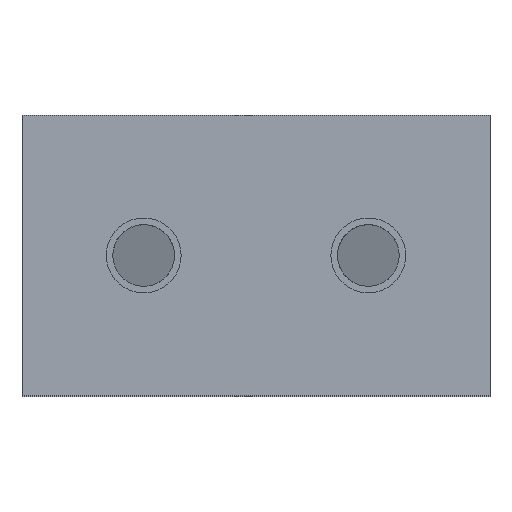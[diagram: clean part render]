
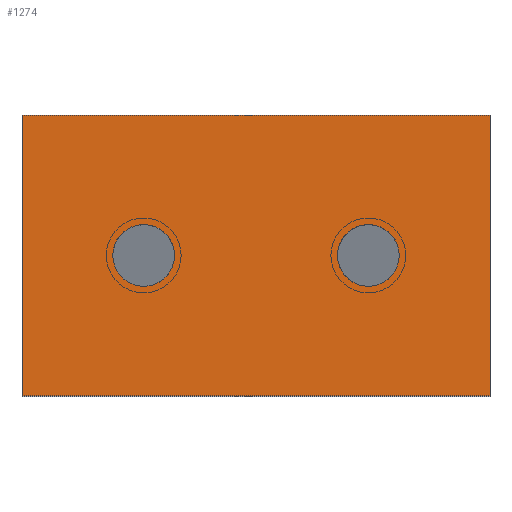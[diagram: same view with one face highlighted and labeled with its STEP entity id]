
A CAD part, top view. The second image highlights one B-rep face of the part: STEP entity #1274.
In plain terms, the highlighted planar face has unit normal (0, 0, 1).
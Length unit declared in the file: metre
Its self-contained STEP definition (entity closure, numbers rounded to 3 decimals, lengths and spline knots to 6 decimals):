
#405=CARTESIAN_POINT('',(0.006,0.0075,0.));
#406=DIRECTION('',(0.,0.,-1.));
#407=DIRECTION('',(-1.,0.,0.));
#408=AXIS2_PLACEMENT_3D('',#405,#406,#407);
#410=CARTESIAN_POINT('',(0.006,0.0075,0.));
#411=DIRECTION('',(0.,0.,-1.));
#412=DIRECTION('',(1.,0.,0.));
#413=AXIS2_PLACEMENT_3D('',#410,#411,#412);
#415=CARTESIAN_POINT('',(-0.006,0.0075,0.));
#416=DIRECTION('',(0.,0.,-1.));
#417=DIRECTION('',(-1.,0.,0.));
#418=AXIS2_PLACEMENT_3D('',#415,#416,#417);
#420=CARTESIAN_POINT('',(-0.006,0.0075,0.));
#421=DIRECTION('',(0.,0.,-1.));
#422=DIRECTION('',(1.,0.,0.));
#423=AXIS2_PLACEMENT_3D('',#420,#421,#422);
#425=DIRECTION('',(0.,1.,0.));
#426=VECTOR('',#425,0.015);
#427=CARTESIAN_POINT('',(0.0125,0.,0.));
#428=LINE('',#427,#426);
#429=DIRECTION('',(1.,0.,0.));
#430=VECTOR('',#429,0.025);
#431=CARTESIAN_POINT('',(-0.0125,0.,0.));
#432=LINE('',#431,#430);
#433=DIRECTION('',(0.,-1.,0.));
#434=VECTOR('',#433,0.015);
#435=CARTESIAN_POINT('',(-0.0125,0.015,0.));
#436=LINE('',#435,#434);
#437=DIRECTION('',(-1.,0.,0.));
#438=VECTOR('',#437,0.025);
#439=CARTESIAN_POINT('',(0.0125,0.015,0.));
#440=LINE('',#439,#438);
#661=CARTESIAN_POINT('',(-0.0125,0.,0.));
#662=VERTEX_POINT('',#661);
#663=CARTESIAN_POINT('',(0.0125,0.,0.));
#664=VERTEX_POINT('',#663);
#665=CARTESIAN_POINT('',(-0.0125,0.015,0.));
#666=VERTEX_POINT('',#665);
#667=CARTESIAN_POINT('',(0.0125,0.015,0.));
#668=VERTEX_POINT('',#667);
#669=CARTESIAN_POINT('',(-0.00435,0.0075,0.));
#670=CARTESIAN_POINT('',(-0.00765,0.0075,0.));
#671=VERTEX_POINT('',#669);
#672=VERTEX_POINT('',#670);
#673=CARTESIAN_POINT('',(0.00765,0.0075,0.));
#674=CARTESIAN_POINT('',(0.00435,0.0075,0.));
#675=VERTEX_POINT('',#673);
#676=VERTEX_POINT('',#674);
#1251=CARTESIAN_POINT('',(-0.0125,0.,0.));
#1252=DIRECTION('',(0.,0.,1.));
#1253=DIRECTION('',(1.,0.,0.));
#1254=AXIS2_PLACEMENT_3D('',#1251,#1252,#1253);
#1255=PLANE('',#1254);
#1256=ORIENTED_EDGE('',*,*,#1120,.F.);
#1257=ORIENTED_EDGE('',*,*,#1246,.F.);
#1258=ORIENTED_EDGE('',*,*,#1083,.F.);
#1259=ORIENTED_EDGE('',*,*,#1018,.F.);
#1260=EDGE_LOOP('',(#1256,#1257,#1258,#1259));
#1261=FACE_OUTER_BOUND('',#1260,.F.);
#1263=ORIENTED_EDGE('',*,*,#1262,.F.);
#1265=ORIENTED_EDGE('',*,*,#1264,.F.);
#1266=EDGE_LOOP('',(#1263,#1265));
#1267=FACE_BOUND('',#1266,.F.);
#1269=ORIENTED_EDGE('',*,*,#1268,.F.);
#1271=ORIENTED_EDGE('',*,*,#1270,.F.);
#1272=EDGE_LOOP('',(#1269,#1271));
#1273=FACE_BOUND('',#1272,.F.);
#1274=ADVANCED_FACE('',(#1261,#1267,#1273),#1255,.T.);
#409=CIRCLE('',#408,0.00165);
#414=CIRCLE('',#413,0.00165);
#419=CIRCLE('',#418,0.00165);
#424=CIRCLE('',#423,0.00165);
#1018=EDGE_CURVE('',#668,#666,#440,.T.);
#1083=EDGE_CURVE('',#666,#662,#436,.T.);
#1120=EDGE_CURVE('',#664,#668,#428,.T.);
#1246=EDGE_CURVE('',#662,#664,#432,.T.);
#1262=EDGE_CURVE('',#672,#671,#419,.T.);
#1264=EDGE_CURVE('',#671,#672,#424,.T.);
#1268=EDGE_CURVE('',#676,#675,#409,.T.);
#1270=EDGE_CURVE('',#675,#676,#414,.T.);
